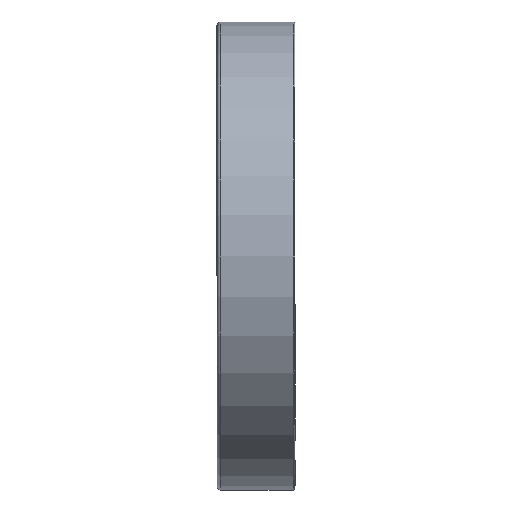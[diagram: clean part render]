
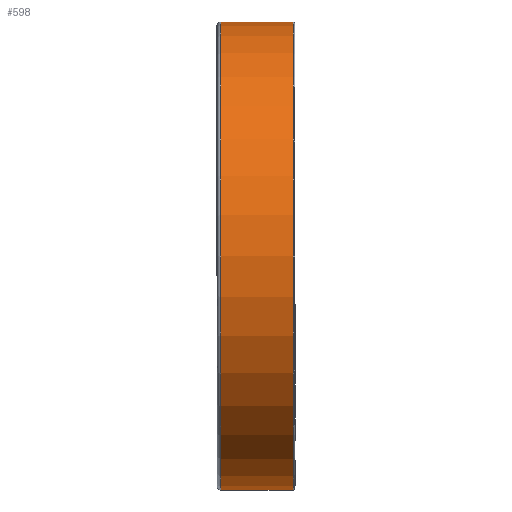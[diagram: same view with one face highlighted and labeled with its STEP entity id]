
A CAD part, front view. The second image highlights one B-rep face of the part: STEP entity #598.
In plain terms, the highlighted cylindrical face has radius 36 mm (diameter 72 mm), a full revolution.
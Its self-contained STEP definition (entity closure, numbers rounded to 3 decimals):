
#176=CYLINDRICAL_SURFACE('',#946,36.);
#288=EDGE_LOOP('',(#412));
#289=EDGE_LOOP('',(#413));
#412=ORIENTED_EDGE('',*,*,#482,.F.);
#413=ORIENTED_EDGE('',*,*,#480,.T.);
#480=EDGE_CURVE('',#867,#867,#500,.T.);
#482=EDGE_CURVE('',#869,#869,#502,.T.);
#500=CIRCLE('',#942,36.);
#502=CIRCLE('',#945,36.);
#598=ADVANCED_FACE('',(#757,#758),#176,.T.);
#757=FACE_BOUND('',#288,.T.);
#758=FACE_BOUND('',#289,.T.);
#867=VERTEX_POINT('',#3690);
#869=VERTEX_POINT('',#3695);
#942=AXIS2_PLACEMENT_3D('',#3689,#1079,#1080);
#945=AXIS2_PLACEMENT_3D('',#3694,#1085,#1086);
#946=AXIS2_PLACEMENT_3D('',#3696,#1087,#1088);
#1079=DIRECTION('',(1.,0.,0.));
#1080=DIRECTION('',(0.,0.,-1.));
#1085=DIRECTION('',(1.,0.,0.));
#1086=DIRECTION('',(0.,0.,-1.));
#1087=DIRECTION('',(1.,0.,0.));
#1088=DIRECTION('',(0.,0.,-1.));
#3689=CARTESIAN_POINT('',(-5.4,0.,0.));
#3690=CARTESIAN_POINT('',(-5.4,0.,-36.));
#3694=CARTESIAN_POINT('',(5.7,0.,0.));
#3695=CARTESIAN_POINT('',(5.7,0.,-36.));
#3696=CARTESIAN_POINT('',(-5.4,0.,0.));
